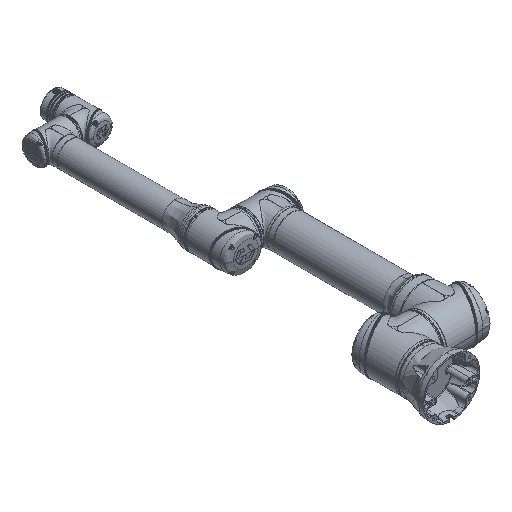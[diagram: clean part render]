
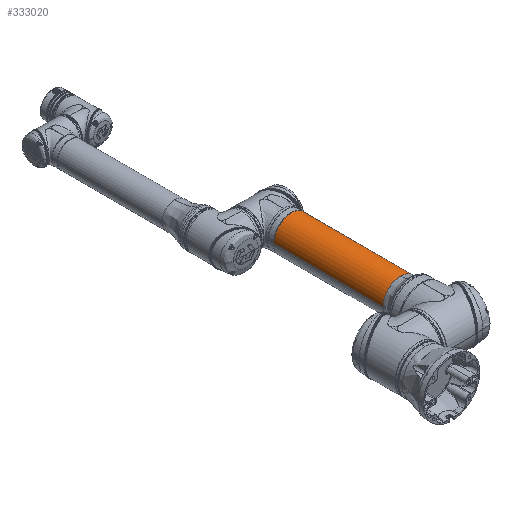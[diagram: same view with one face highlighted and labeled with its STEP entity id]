
A CAD part, isometric view. The second image highlights one B-rep face of the part: STEP entity #333020.
In plain terms, the highlighted cylindrical face has radius 59 mm (diameter 118 mm), a partial arc.
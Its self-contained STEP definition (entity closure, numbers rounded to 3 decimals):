
#232 = EDGE_CURVE ( 'NONE', #459105, #366534, #86159, .T. ) ;
#1014 = DIRECTION ( 'NONE',  ( 0., 0., -1. ) ) ;
#8919 = CARTESIAN_POINT ( 'NONE',  ( 526.1, 0., 59. ) ) ;
#19781 = AXIS2_PLACEMENT_3D ( 'NONE', #421908, #203848, #554015 ) ;
#27668 = AXIS2_PLACEMENT_3D ( 'NONE', #50730, #270546, #1014 ) ;
#34232 = EDGE_CURVE ( 'NONE', #206491, #459105, #158823, .T. ) ;
#50730 = CARTESIAN_POINT ( 'NONE',  ( 526.1, 0., 0. ) ) ;
#61899 = EDGE_CURVE ( 'NONE', #505261, #206491, #396322, .T. ) ;
#62605 = EDGE_CURVE ( 'NONE', #373483, #366534, #560736, .T. ) ;
#80342 = DIRECTION ( 'NONE',  ( 0., 0., -1. ) ) ;
#86159 = CIRCLE ( 'NONE', #27668, 59. ) ;
#91501 = EDGE_LOOP ( 'NONE', ( #510725, #479073, #501596, #255300, #426334 ) ) ;
#119549 = FACE_OUTER_BOUND ( 'NONE', #91501, .T. ) ;
#131340 = VECTOR ( 'NONE', #513834, 1000. ) ;
#157282 = DIRECTION ( 'NONE',  ( 1., 0., 0. ) ) ;
#158823 = LINE ( 'NONE', #289859, #131340 ) ;
#161755 = CARTESIAN_POINT ( 'NONE',  ( 158.463, 0., -59. ) ) ;
#174365 = CYLINDRICAL_SURFACE ( 'NONE', #418966, 59. ) ;
#203848 = DIRECTION ( 'NONE',  ( 1., 0., 0. ) ) ;
#206491 = VERTEX_POINT ( 'NONE', #161755 ) ;
#211556 = CIRCLE ( 'NONE', #19781, 59. ) ;
#218608 = CARTESIAN_POINT ( 'NONE',  ( 158.463, -59., 0. ) ) ;
#241455 = CARTESIAN_POINT ( 'NONE',  ( 562.7, 0., 59. ) ) ;
#255300 = ORIENTED_EDGE ( 'NONE', *, *, #34232, .T. ) ;
#258086 = DIRECTION ( 'NONE',  ( 1., 0., 0. ) ) ;
#270546 = DIRECTION ( 'NONE',  ( -1., 0., 0. ) ) ;
#289859 = CARTESIAN_POINT ( 'NONE',  ( 562.7, 0., -59. ) ) ;
#292483 = DIRECTION ( 'NONE',  ( 0., 0., -1. ) ) ;
#333020 = ADVANCED_FACE ( 'NONE', ( #119549 ), #174365, .T. ) ;
#366534 = VERTEX_POINT ( 'NONE', #8919 ) ;
#368263 = CARTESIAN_POINT ( 'NONE',  ( 526.1, 0., -59. ) ) ;
#373483 = VERTEX_POINT ( 'NONE', #471188 ) ;
#381910 = EDGE_CURVE ( 'NONE', #373483, #505261, #211556, .T. ) ;
#396322 = CIRCLE ( 'NONE', #460601, 59. ) ;
#418966 = AXIS2_PLACEMENT_3D ( 'NONE', #520311, #258086, #80342 ) ;
#421908 = CARTESIAN_POINT ( 'NONE',  ( 158.463, 0., 0. ) ) ;
#426334 = ORIENTED_EDGE ( 'NONE', *, *, #232, .T. ) ;
#459105 = VERTEX_POINT ( 'NONE', #368263 ) ;
#460601 = AXIS2_PLACEMENT_3D ( 'NONE', #549047, #508842, #292483 ) ;
#471188 = CARTESIAN_POINT ( 'NONE',  ( 158.463, 0., 59. ) ) ;
#479073 = ORIENTED_EDGE ( 'NONE', *, *, #381910, .T. ) ;
#499068 = VECTOR ( 'NONE', #157282, 1000. ) ;
#501596 = ORIENTED_EDGE ( 'NONE', *, *, #61899, .T. ) ;
#505261 = VERTEX_POINT ( 'NONE', #218608 ) ;
#508842 = DIRECTION ( 'NONE',  ( 1., 0., 0. ) ) ;
#510725 = ORIENTED_EDGE ( 'NONE', *, *, #62605, .F. ) ;
#513834 = DIRECTION ( 'NONE',  ( 1., 0., 0. ) ) ;
#520311 = CARTESIAN_POINT ( 'NONE',  ( 562.7, 0., 0. ) ) ;
#549047 = CARTESIAN_POINT ( 'NONE',  ( 158.463, 0., 0. ) ) ;
#554015 = DIRECTION ( 'NONE',  ( 0., 0., -1. ) ) ;
#560736 = LINE ( 'NONE', #241455, #499068 ) ;
